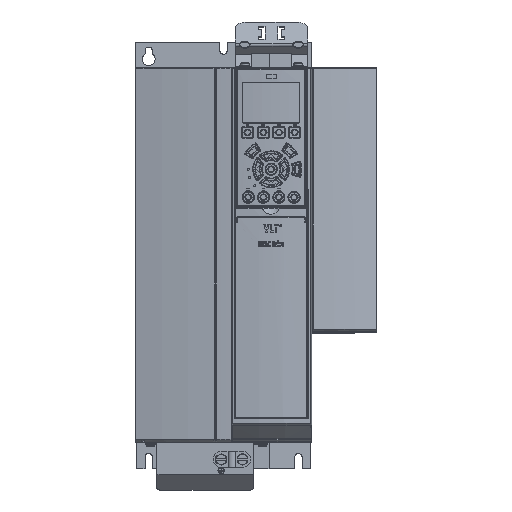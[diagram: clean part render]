
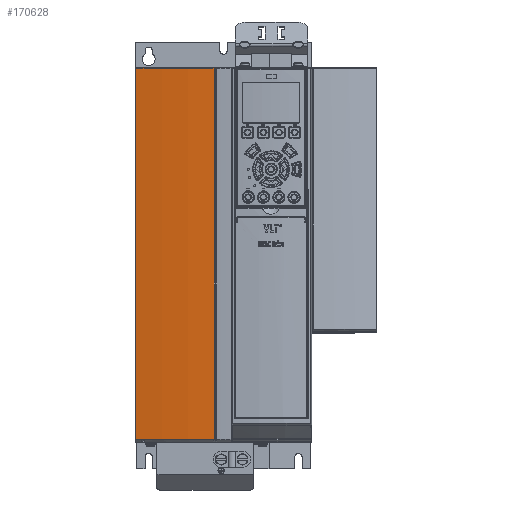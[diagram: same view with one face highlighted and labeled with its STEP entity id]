
A CAD part, top view. The second image highlights one B-rep face of the part: STEP entity #170628.
In plain terms, the highlighted cylindrical face has radius 574.02 mm (diameter 1148.04 mm), a partial arc.
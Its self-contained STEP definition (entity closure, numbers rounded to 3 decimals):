
#33137=CARTESIAN_POINT('',(-82.111,174.5,232.048));
#72039=DIRECTION('',(0.,-1.,0.));
#72040=VECTOR('',#72039,346.896);
#72041=CARTESIAN_POINT('',(-82.111,174.5,232.048));
#72042=LINE('',#72041,#72040);
#72046=CARTESIAN_POINT('',(44.923,174.5,-327.738));
#72047=DIRECTION('',(0.,1.,0.));
#72048=DIRECTION('',(-0.221,0.,0.975));
#72049=AXIS2_PLACEMENT_3D('',#72046,#72047,#72048);
#72054=DIRECTION('',(0.,1.,0.));
#72055=VECTOR('',#72054,346.896);
#72056=CARTESIAN_POINT('',(-8.928,-172.396,
243.75));
#72057=LINE('',#72056,#72055);
#72061=CARTESIAN_POINT('',(44.923,-172.396,
-327.738));
#72062=DIRECTION('',(0.,1.,0.));
#72063=DIRECTION('',(-0.221,0.,0.975));
#72064=AXIS2_PLACEMENT_3D('',#72061,#72062,#72063);
#72078=CARTESIAN_POINT('',(-8.928,174.5,
243.75));
#82541=VERTEX_POINT('',#72078);
#82545=CARTESIAN_POINT('',(-8.928,-172.396,
243.75));
#82546=VERTEX_POINT('',#82545);
#82553=CARTESIAN_POINT('',(-82.111,-172.396,
232.048));
#82554=VERTEX_POINT('',#82553);
#83501=VERTEX_POINT('',#33137);
#170616=CARTESIAN_POINT('',(44.923,-175.,-327.738));
#170617=DIRECTION('',(0.,1.,0.));
#170618=DIRECTION('',(0.,0.,1.));
#170619=AXIS2_PLACEMENT_3D('',#170616,#170617,#170618);
#170620=CYLINDRICAL_SURFACE('',#170619,574.02);
#170621=ORIENTED_EDGE('',*,*,#121065,.F.);
#170623=ORIENTED_EDGE('',*,*,#170622,.T.);
#170624=ORIENTED_EDGE('',*,*,#170606,.F.);
#170625=ORIENTED_EDGE('',*,*,#120989,.F.);
#170626=EDGE_LOOP('',(#170621,#170623,#170624,#170625));
#170627=FACE_OUTER_BOUND('',#170626,.F.);
#170628=ADVANCED_FACE('',(#170627),#170620,.T.);
#72050=CIRCLE('',#72049,574.02);
#72065=CIRCLE('',#72064,574.02);
#120989=EDGE_CURVE('',#82554,#82546,#72065,.T.);
#121065=EDGE_CURVE('',#83501,#82554,#72042,.T.);
#170606=EDGE_CURVE('',#82546,#82541,#72057,.T.);
#170622=EDGE_CURVE('',#83501,#82541,#72050,.T.);
